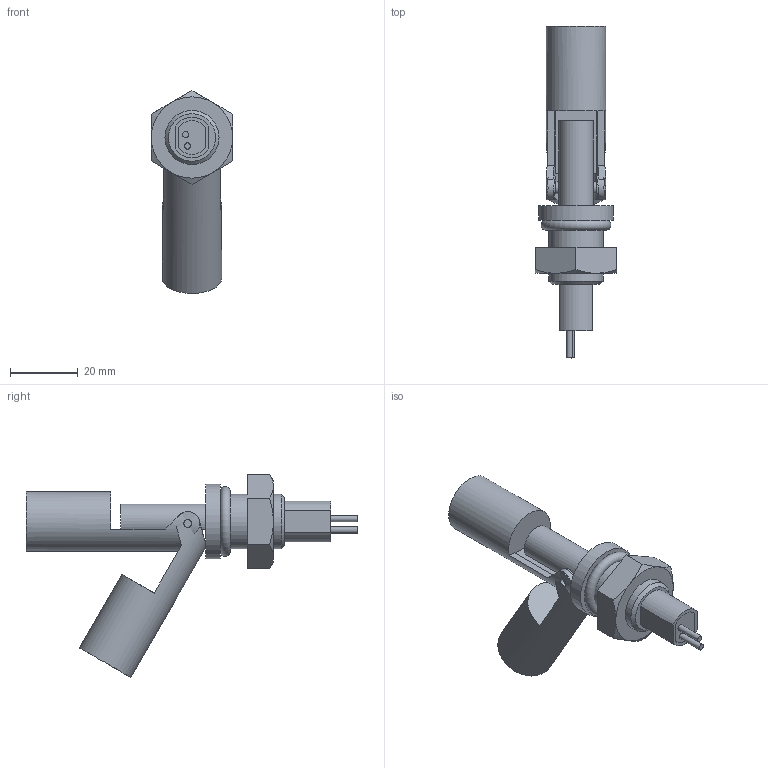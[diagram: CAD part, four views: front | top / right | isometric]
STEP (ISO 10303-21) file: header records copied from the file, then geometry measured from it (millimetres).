
FILE_DESCRIPTION((''),'2;1');
FILE_NAME('C:\Vault_local\Designs\Stock\3D pour clients\préparations\2D3D 517 A.stp','2009-08-07T10:30:28',('Georges THOLLOT ','Responsible for','Methods and Industrialization',' Tl : +33 (0)4 77 53 90 27','gthollot@celduc.com'),('Celduc r e l a i s','5, rue Ampre, BP 30004','42290 SORBIERS - France','Fax. : +33 (0)4 77 53 85 51','N siret 353 310 519 00015','ISO 9001 N QUAL/1993/1106b','www.celduc.com'),'Autodesk Inventor 2009','Autodesk Inventor 2009','');
FILE_SCHEMA(('AUTOMOTIVE_DESIGN { 1 0 10303 214 1 1 1 1 }'));
Length unit declared in the file: millimetre
Products named in the file (5): PTFA3315; corps; joint; ecrou; flotteur
Assembly tree (5 placements, depth 2):
  PTFA3315
    corps
    joint
    ecrou
    flotteur  x2
Bounding box: 24 x 98 x 59.88 mm (x, y, z)
Volume: 26958.4 mm3; surface area: 11514.4 mm2
Topology: 5 solids, 5 shells, 83 faces, 192 edges, 126 vertices
Faces by surface type: plane 48, cylinder 25, cone 8, torus 1, bspline 1
Full cylindrical faces by diameter (mm): 1.8 x2, 2.35 x6, 3.5 x2, 16 x1, 17.5 x2, 22 x1
Entity records: 2398 total; most frequent: CARTESIAN_POINT 798, DIRECTION 310, ORIENTED_EDGE 262, EDGE_CURVE 131, AXIS2_PLACEMENT_3D 124, EDGE_LOOP 97, VERTEX_POINT 92, FACE_OUTER_BOUND 68
